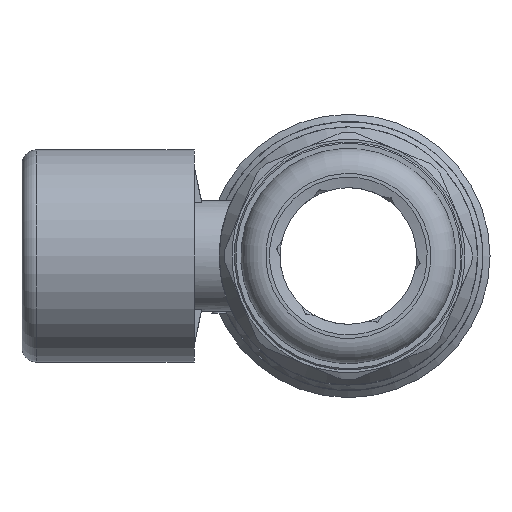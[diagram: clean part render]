
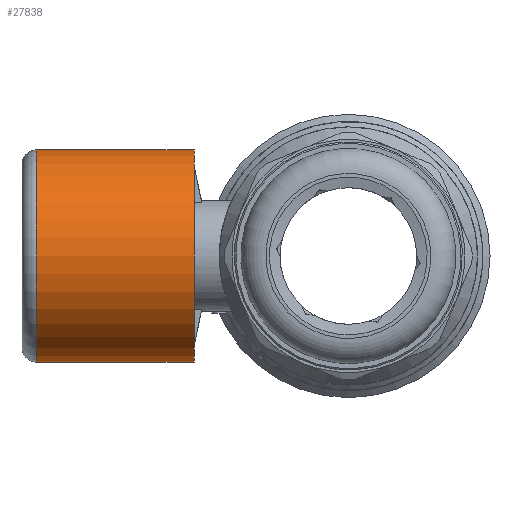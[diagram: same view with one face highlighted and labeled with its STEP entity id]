
A CAD part, left-side view. The second image highlights one B-rep face of the part: STEP entity #27838.
In plain terms, the highlighted cylindrical face has radius 14.8 mm (diameter 29.6 mm), a full revolution.
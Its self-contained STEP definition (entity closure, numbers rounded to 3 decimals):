
#27796=CARTESIAN_POINT('',(0.,43.5,14.8));
#27797=VERTEX_POINT('',#27796);
#27798=CARTESIAN_POINT('',(0.,43.5,0.));
#27799=DIRECTION('',(0.0,1.0,0.0));
#27800=DIRECTION('',(0.0,0.0,1.0));
#27801=AXIS2_PLACEMENT_3D('',#27798,#27799,#27800);
#27802=CIRCLE('',#27801,14.8);
#27803=EDGE_CURVE('',#27797,#27797,#27802,.T.);
#27819=CARTESIAN_POINT('',(0.,32.5,0.));
#27820=DIRECTION('',(0.,1.0,0.));
#27821=DIRECTION('',(-1.0,0.0,0.0));
#27822=AXIS2_PLACEMENT_3D('',#27819,#27820,#27821);
#27823=CYLINDRICAL_SURFACE('',#27822,14.8);
#27824=CARTESIAN_POINT('',(0.,21.5,14.8));
#27825=VERTEX_POINT('',#27824);
#27826=CARTESIAN_POINT('',(0.,21.5,0.));
#27827=DIRECTION('',(0.0,1.0,0.0));
#27828=DIRECTION('',(0.0,0.0,1.0));
#27829=AXIS2_PLACEMENT_3D('',#27826,#27827,#27828);
#27830=CIRCLE('',#27829,14.8);
#27831=EDGE_CURVE('',#27825,#27825,#27830,.T.);
#27832=ORIENTED_EDGE('',*,*,#27831,.T.);
#27833=EDGE_LOOP('',(#27832));
#27834=FACE_OUTER_BOUND('',#27833,.T.);
#27835=ORIENTED_EDGE('',*,*,#27803,.F.);
#27836=EDGE_LOOP('',(#27835));
#27837=FACE_BOUND('',#27836,.T.);
#27838=ADVANCED_FACE('',(#27834,#27837),#27823,.T.);
